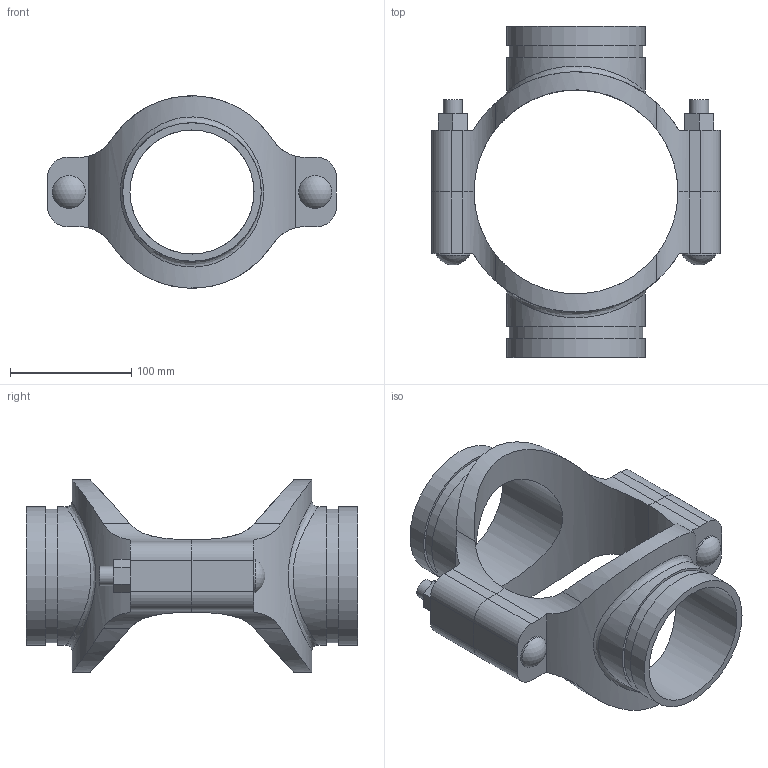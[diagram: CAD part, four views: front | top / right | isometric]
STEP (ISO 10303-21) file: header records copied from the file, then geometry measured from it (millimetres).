
FILE_DESCRIPTION(/* description */ ('VIC MECH-T BRANCH OUTLET CROSS STYLE 920N (GRVD)','CAx-IF Rec.Pracs.---Representation and Presentation of Product Manufacturing Information (PMI)---4.0---2014-10-13'),/* implementation_level */ '2;1');
FILE_NAME(/* name */ 'C:\Users\Vjadhav\AppData\Roaming\Autodesk\ApplicationPlugins\Back Up\Victaulic_IPS_Mechanical-Cross Outlet_Style 920N (OGS)\Victaulic_IPS_Mechanical-Cross Outlet_06.0x04.0x04.0 (150x100x100).stp',/* time_stamp */ '2020-08-06T19:45:03+05:00',/* author */ ('Vjadhav'),/* organization */ ('Victaulic'),/* preprocessor_version */ 'ST-DEVELOPER v17.2',/* originating_system */ 'Autodesk Inventor 2019',/* authorisation */ '');
FILE_SCHEMA (('AP242_MANAGED_MODEL_BASED_3D_ENGINEERING_MIM_LF { 1 0 10303 442 1 1 4 }'));
Length unit declared in the file: inch
Products named in the file (3): 920NG-06.0x04.0x04.0; 920G-06.0x04.0; 920G-06.0x04.0_1
Assembly tree (2 placements, depth 2):
  920NG-06.0x04.0x04.0
    920G-06.0x04.0
    920G-06.0x04.0_1
Bounding box: 238.25 x 273.3 x 158.73 mm (x, y, z)
Volume: 1040913.1 mm3; surface area: 224788.4 mm2
Topology: 2 solids, 2 shells, 104 faces, 262 edges, 178 vertices
Faces by surface type: plane 54, cylinder 46, sphere 2, bspline 2
Full cylindrical faces by diameter (mm): 15.875 x4, 27.381 x2, 102.394 x2, 110.084 x2, 114.3 x4
Entity records: 4254 total; most frequent: CARTESIAN_POINT 1481, DIRECTION 532, ORIENTED_EDGE 524, EDGE_CURVE 262, AXIS2_PLACEMENT_3D 193, VERTEX_POINT 178, LINE 146, VECTOR 146
